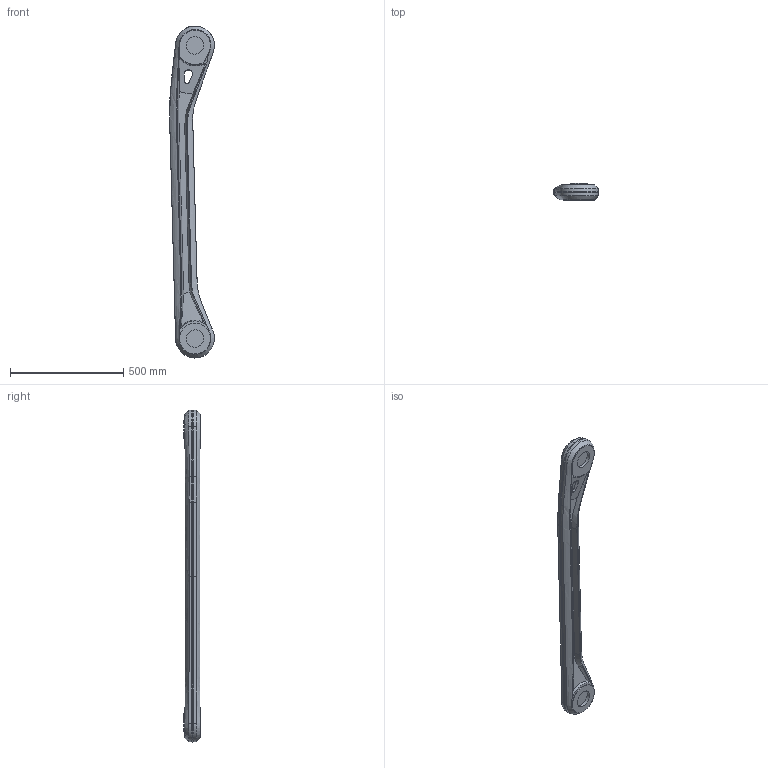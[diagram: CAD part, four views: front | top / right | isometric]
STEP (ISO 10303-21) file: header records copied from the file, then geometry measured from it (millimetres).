
FILE_DESCRIPTION (( 'STEP AP214' ), '1' );
FILE_NAME ('IRB77X0_All_OC_00_LINKBAR_CAD.step', '2026-01-28T13:13:00', ( '' ), ( '' ), 'SwSTEP 2.0', 'SolidWorks 2024', '' );
FILE_SCHEMA (( 'AUTOMOTIVE_DESIGN' ));
Length unit declared in the file: millimetre
Products named in the file (1): IRB77X0_All_OC_00_LINKBAR_CAD
Bounding box: 198.66 x 75 x 1466.7 mm (x, y, z)
Volume: 7639126.2 mm3; surface area: 578967.5 mm2
Topology: 1 solids, 1 shells, 120 faces, 297 edges, 185 vertices
Faces by surface type: cone 46, plane 34, torus 16, cylinder 12, bspline 12
Full cylindrical faces by diameter (mm): 77 x4, 136 x2
Entity records: 14035 total; most frequent: CARTESIAN_POINT 10054, ORIENTED_EDGE 566, DIRECTION 507, EDGE_CURVE 283, AXIS2_PLACEMENT_3D 209, VERTEX_POINT 181, EDGE_LOOP 138, FACE_OUTER_BOUND 128
